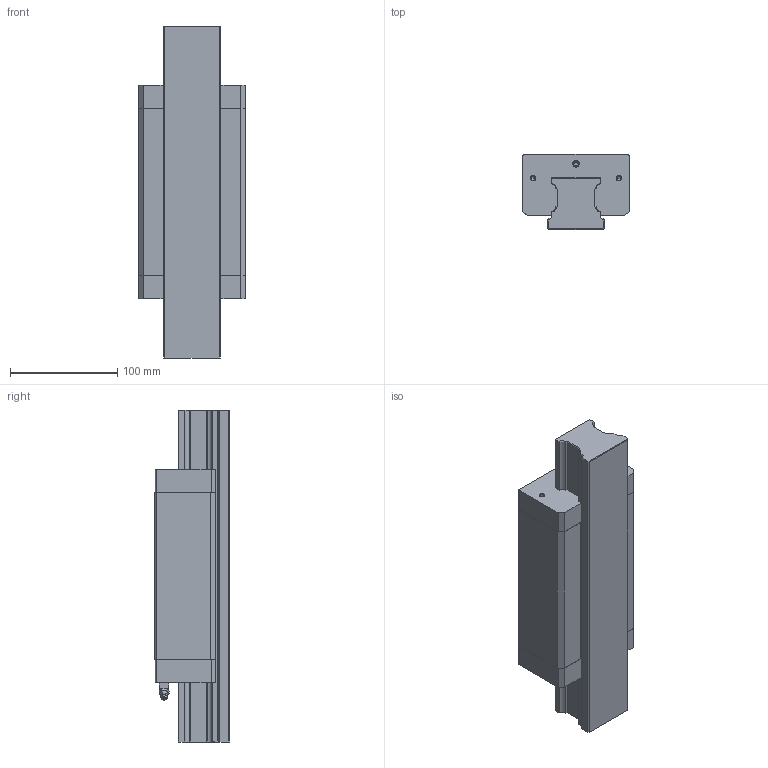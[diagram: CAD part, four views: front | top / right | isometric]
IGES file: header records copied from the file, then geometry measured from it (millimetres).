
Start section: 3D InterOp IGES (v. 2019 1.0.2), Spatial Corp. Copyright (c) 1999-2017.
Global section: file name: R1623_size55.igs; native system: Spatial Corp.; preprocessor: 3D InterOp GENERIC/IGES 3.0; author: Noname; organization: Noname; date: 20220629.124919; units: millimetre
Bounding box: 100 x 70 x 309 mm (x, y, z)
Surface area: 198555 mm2 (no closed solid volume)
Topology: 0 solids, 0 shells, 275 faces, 1528 edges, 1504 vertices
Faces by surface type: extrusion 154, revolution 119, bspline 2
